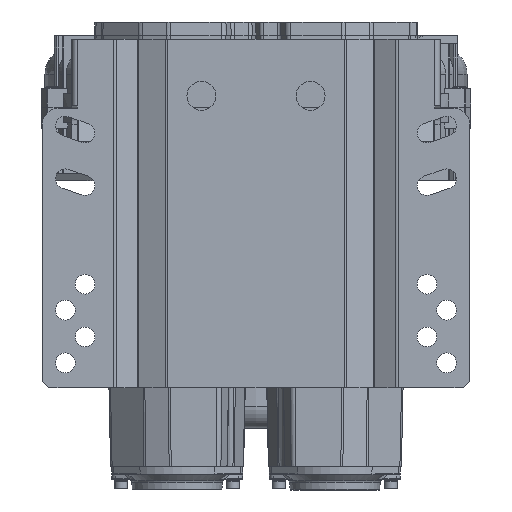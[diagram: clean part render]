
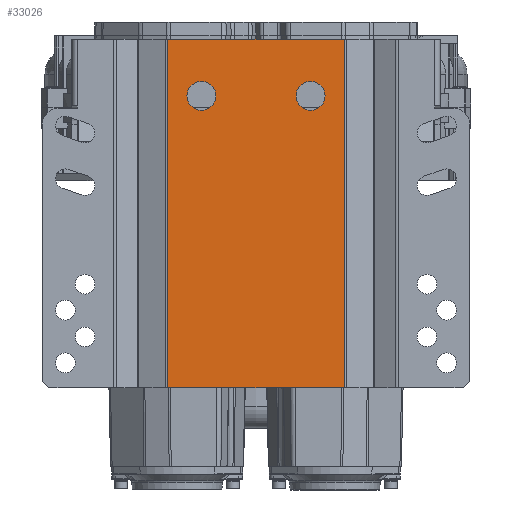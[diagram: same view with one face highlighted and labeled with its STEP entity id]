
A CAD part, front view. The second image highlights one B-rep face of the part: STEP entity #33026.
In plain terms, the highlighted planar face has unit normal (0, -1, 0).
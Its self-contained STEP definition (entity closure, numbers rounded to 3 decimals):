
#299 = EDGE_CURVE ( 'NONE', #56363, #56363, #80151, .T. ) ;
#4411 = EDGE_LOOP ( 'NONE', ( #68602 ) ) ;
#6875 = LINE ( 'NONE', #31432, #51646 ) ;
#7591 = ORIENTED_EDGE ( 'NONE', *, *, #54225, .F. ) ;
#10925 = LINE ( 'NONE', #26783, #14817 ) ;
#12518 = DIRECTION ( 'NONE',  ( 0., 0., 1. ) ) ;
#14073 = DIRECTION ( 'NONE',  ( 0., 0., -1. ) ) ;
#14517 = DIRECTION ( 'NONE',  ( 0., -1., 0. ) ) ;
#14817 = VECTOR ( 'NONE', #58022, 1000. ) ;
#15712 = DIRECTION ( 'NONE',  ( -1., 0., 0. ) ) ;
#20361 = ORIENTED_EDGE ( 'NONE', *, *, #299, .F. ) ;
#20915 = VECTOR ( 'NONE', #15712, 1000. ) ;
#22387 = CARTESIAN_POINT ( 'NONE',  ( 41.5, -199., 43.9 ) ) ;
#22901 = DIRECTION ( 'NONE',  ( 0., 1., 0. ) ) ;
#25126 = CARTESIAN_POINT ( 'NONE',  ( 67.005, -199., 86.9 ) ) ;
#25741 = EDGE_CURVE ( 'NONE', #79930, #70992, #96283, .T. ) ;
#26783 = CARTESIAN_POINT ( 'NONE',  ( 67.005, -199., -178.1 ) ) ;
#27965 = EDGE_LOOP ( 'NONE', ( #20361 ) ) ;
#31432 = CARTESIAN_POINT ( 'NONE',  ( -67.005, -199., 86.9 ) ) ;
#33026 = ADVANCED_FACE ( 'NONE', ( #60446, #51811, #91188 ), #75828, .T. ) ;
#36893 = ORIENTED_EDGE ( 'NONE', *, *, #25741, .F. ) ;
#37038 = EDGE_LOOP ( 'NONE', ( #7591, #36893, #39054, #74223 ) ) ;
#39054 = ORIENTED_EDGE ( 'NONE', *, *, #63401, .T. ) ;
#39319 = AXIS2_PLACEMENT_3D ( 'NONE', #61099, #14517, #12518 ) ;
#39430 = EDGE_CURVE ( 'NONE', #64371, #67403, #6875, .T. ) ;
#39831 = VECTOR ( 'NONE', #57365, 1000. ) ;
#48294 = CARTESIAN_POINT ( 'NONE',  ( 67.005, -199., 86.9 ) ) ;
#51646 = VECTOR ( 'NONE', #14073, 1000. ) ;
#51811 = FACE_OUTER_BOUND ( 'NONE', #37038, .T. ) ;
#52595 = AXIS2_PLACEMENT_3D ( 'NONE', #83501, #98376, #52799 ) ;
#52799 = DIRECTION ( 'NONE',  ( 0., 0., 1. ) ) ;
#54125 = DIRECTION ( 'NONE',  ( 0., 0., 1. ) ) ;
#54225 = EDGE_CURVE ( 'NONE', #70992, #67403, #10925, .T. ) ;
#54627 = LINE ( 'NONE', #85837, #20915 ) ;
#55216 = VERTEX_POINT ( 'NONE', #87447 ) ;
#56363 = VERTEX_POINT ( 'NONE', #71197 ) ;
#57365 = DIRECTION ( 'NONE',  ( 0., 0., -1. ) ) ;
#58022 = DIRECTION ( 'NONE',  ( -1., 0., 0. ) ) ;
#60446 = FACE_BOUND ( 'NONE', #4411, .T. ) ;
#61099 = CARTESIAN_POINT ( 'NONE',  ( -41.5, -199., 43.9 ) ) ;
#63401 = EDGE_CURVE ( 'NONE', #79930, #64371, #54627, .T. ) ;
#64371 = VERTEX_POINT ( 'NONE', #72716 ) ;
#67403 = VERTEX_POINT ( 'NONE', #91876 ) ;
#68541 = EDGE_CURVE ( 'NONE', #55216, #55216, #98472, .T. ) ;
#68602 = ORIENTED_EDGE ( 'NONE', *, *, #68541, .T. ) ;
#70992 = VERTEX_POINT ( 'NONE', #73600 ) ;
#71197 = CARTESIAN_POINT ( 'NONE',  ( -41.5, -199., 54.9 ) ) ;
#72716 = CARTESIAN_POINT ( 'NONE',  ( -67.005, -199., 86.9 ) ) ;
#73600 = CARTESIAN_POINT ( 'NONE',  ( 67.005, -199., -178.1 ) ) ;
#74223 = ORIENTED_EDGE ( 'NONE', *, *, #39430, .T. ) ;
#75590 = AXIS2_PLACEMENT_3D ( 'NONE', #22387, #22901, #54125 ) ;
#75828 = PLANE ( 'NONE',  #52595 ) ;
#79930 = VERTEX_POINT ( 'NONE', #48294 ) ;
#80151 = CIRCLE ( 'NONE', #39319, 11. ) ;
#83501 = CARTESIAN_POINT ( 'NONE',  ( 67.005, -199., 86.9 ) ) ;
#85837 = CARTESIAN_POINT ( 'NONE',  ( 67.005, -199., 86.9 ) ) ;
#87447 = CARTESIAN_POINT ( 'NONE',  ( 41.5, -199., 54.9 ) ) ;
#91188 = FACE_BOUND ( 'NONE', #27965, .T. ) ;
#91876 = CARTESIAN_POINT ( 'NONE',  ( -67.005, -199., -178.1 ) ) ;
#96283 = LINE ( 'NONE', #25126, #39831 ) ;
#98376 = DIRECTION ( 'NONE',  ( 0., -1., 0. ) ) ;
#98472 = CIRCLE ( 'NONE', #75590, 11. ) ;
